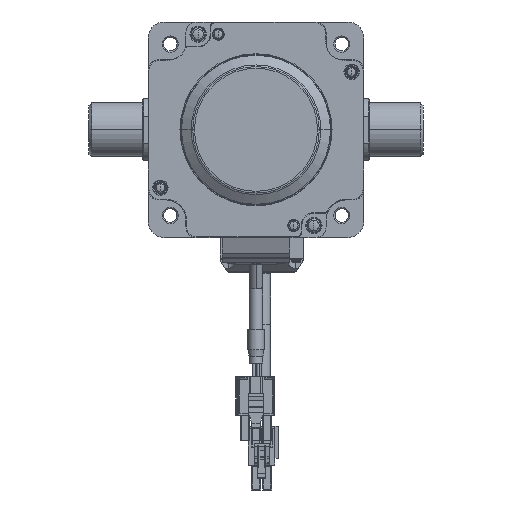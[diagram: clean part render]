
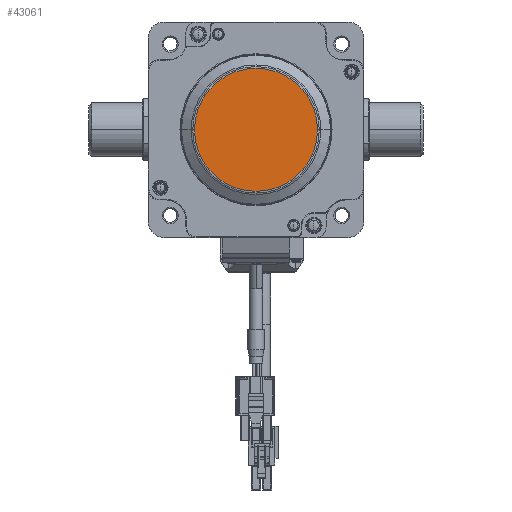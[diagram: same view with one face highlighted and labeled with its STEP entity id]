
A CAD part, front view. The second image highlights one B-rep face of the part: STEP entity #43061.
In plain terms, the highlighted planar face has unit normal (0, -1, 0) as drawn and (-1, 0, 0) by its records, which use the part's own axes.
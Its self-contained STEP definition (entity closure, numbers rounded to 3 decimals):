
#36042=CARTESIAN_POINT('',(-91.9,0.,0.));
#36043=DIRECTION('',(-1.,0.,0.));
#36044=DIRECTION('',(0.,0.,-1.));
#36045=AXIS2_PLACEMENT_3D('',#36042,#36043,#36044);
#36047=CARTESIAN_POINT('',(-91.9,0.,0.));
#36048=DIRECTION('',(-1.,0.,0.));
#36049=DIRECTION('',(0.,0.,1.));
#36050=AXIS2_PLACEMENT_3D('',#36047,#36048,#36049);
#37874=CARTESIAN_POINT('',(-91.9,0.,-22.84));
#37876=VERTEX_POINT('',#37874);
#37880=CARTESIAN_POINT('',(-91.9,0.,22.84));
#37881=VERTEX_POINT('',#37880);
#43051=CARTESIAN_POINT('',(-91.9,-22.,36.));
#43052=DIRECTION('',(1.,0.,0.));
#43053=DIRECTION('',(0.,0.,-1.));
#43054=AXIS2_PLACEMENT_3D('',#43051,#43052,#43053);
#43055=PLANE('',#43054);
#43056=ORIENTED_EDGE('',*,*,#43041,.F.);
#43058=ORIENTED_EDGE('',*,*,#43057,.F.);
#43059=EDGE_LOOP('',(#43056,#43058));
#43060=FACE_OUTER_BOUND('',#43059,.F.);
#43061=ADVANCED_FACE('',(#43060),#43055,.F.);
#36046=CIRCLE('',#36045,22.84);
#36051=CIRCLE('',#36050,22.84);
#43041=EDGE_CURVE('',#37876,#37881,#36046,.T.);
#43057=EDGE_CURVE('',#37881,#37876,#36051,.T.);
